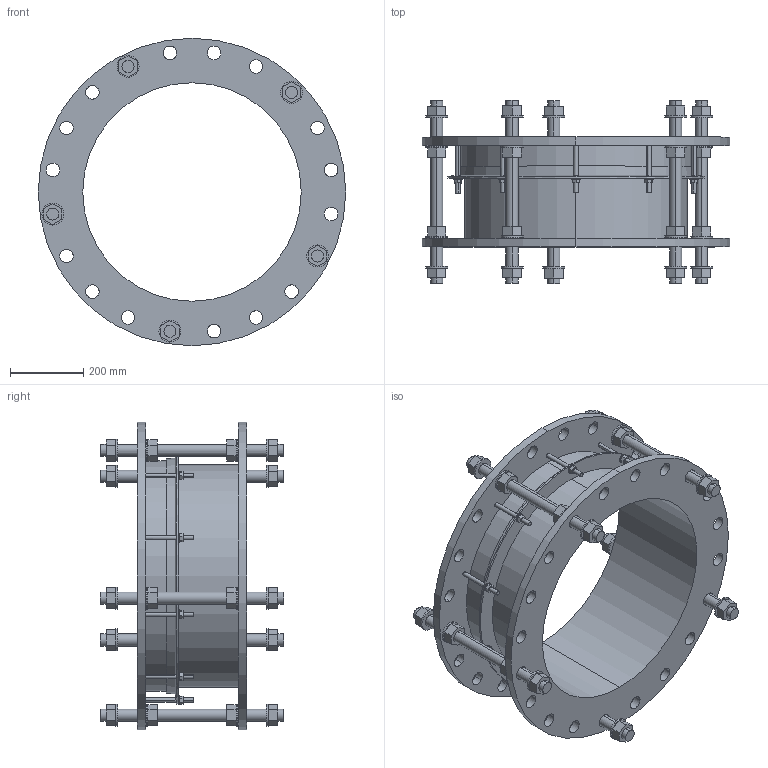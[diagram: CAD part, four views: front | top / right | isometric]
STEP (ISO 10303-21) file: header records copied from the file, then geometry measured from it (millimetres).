
FILE_DESCRIPTION((''),'2;1');
FILE_NAME('LO2_DJ_BIM_ASM','2020-11-27T',('mfairey'),('Glynwed Pipe Systems'),'CREO PARAMETRIC BY PTC INC, 2016130','CREO PARAMETRIC BY PTC INC, 2016130','');
FILE_SCHEMA(('CONFIG_CONTROL_DESIGN'));
Length unit declared in the file: millimetre
Products named in the file (3): DJ_AF0; TIE_BOLT_BIM; LO2_DJ_BIM_ASM
Assembly tree (6 placements, depth 2):
  LO2_DJ_BIM_ASM
    DJ_AF0
    TIE_BOLT_BIM  x5
Bounding box: 840 x 500 x 840 mm (x, y, z)
Volume: 20399649 mm3; surface area: 2851013 mm2
Topology: 6 solids, 6 shells, 542 faces, 1320 edges, 872 vertices
Faces by surface type: plane 296, cylinder 242, cone 4
Entity records: 10652 total; most frequent: CARTESIAN_POINT 2283, DIRECTION 1810, ORIENTED_EDGE 1632, EDGE_CURVE 816, AXIS2_PLACEMENT_3D 691, VERTEX_POINT 536, EDGE_LOOP 454, VECTOR 428
